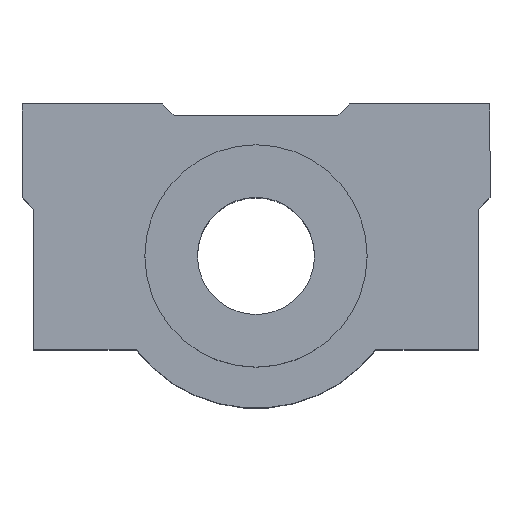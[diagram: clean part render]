
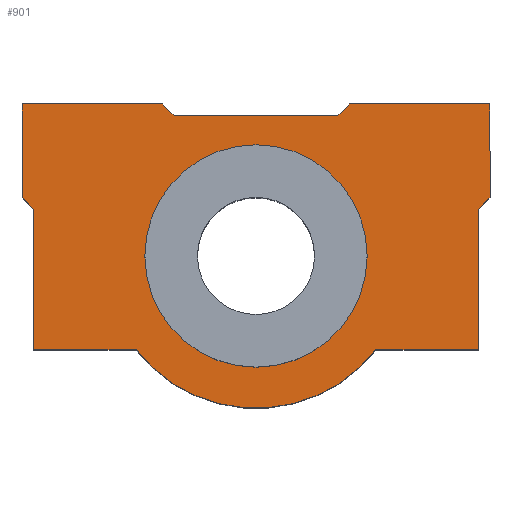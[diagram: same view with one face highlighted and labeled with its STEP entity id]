
A CAD part, top view. The second image highlights one B-rep face of the part: STEP entity #901.
In plain terms, the highlighted planar face has unit normal (0, 0, 1).
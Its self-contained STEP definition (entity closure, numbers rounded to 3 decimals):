
#133=CARTESIAN_POINT('',(-10.209,4.198,24.25));
#134=VERTEX_POINT('',#133);
#143=CARTESIAN_POINT('',(8.791,4.198,24.25));
#144=VERTEX_POINT('',#143);
#145=CARTESIAN_POINT('',(-0.709,4.198,24.25));
#146=DIRECTION('',(0.0,0.0,1.0));
#147=DIRECTION('',(-1.0,0.0,0.0));
#148=AXIS2_PLACEMENT_3D('',#145,#146,#147);
#149=CIRCLE('',#148,9.5);
#150=EDGE_CURVE('',#134,#144,#149,.T.);
#522=CARTESIAN_POINT('',(19.291,9.198,24.25));
#523=VERTEX_POINT('',#522);
#524=CARTESIAN_POINT('',(18.291,8.198,24.25));
#525=VERTEX_POINT('',#524);
#526=CARTESIAN_POINT('',(19.291,9.198,24.25));
#527=DIRECTION('',(-0.707,-0.707,0.0));
#528=VECTOR('',#527,1.414);
#529=LINE('',#526,#528);
#530=EDGE_CURVE('',#523,#525,#529,.T.);
#553=CARTESIAN_POINT('',(18.291,-3.802,24.25));
#554=VERTEX_POINT('',#553);
#555=CARTESIAN_POINT('',(18.291,8.198,24.25));
#556=DIRECTION('',(0.0,-1.0,0.0));
#557=VECTOR('',#556,12.);
#558=LINE('',#555,#557);
#559=EDGE_CURVE('',#525,#554,#558,.T.);
#577=CARTESIAN_POINT('',(9.538,-3.802,24.25));
#578=VERTEX_POINT('',#577);
#579=CARTESIAN_POINT('',(18.291,-3.802,24.25));
#580=DIRECTION('',(-1.0,0.0,0.0));
#581=VECTOR('',#580,8.753);
#582=LINE('',#579,#581);
#583=EDGE_CURVE('',#554,#578,#582,.T.);
#605=CARTESIAN_POINT('',(-10.956,-3.802,24.25));
#606=VERTEX_POINT('',#605);
#607=CARTESIAN_POINT('',(-0.709,4.198,24.25));
#608=DIRECTION('',(0.0,0.0,-1.0));
#609=DIRECTION('',(0.788,0.615,0.0));
#610=AXIS2_PLACEMENT_3D('',#607,#608,#609);
#611=CIRCLE('',#610,13.0);
#612=EDGE_CURVE('',#578,#606,#611,.T.);
#630=CARTESIAN_POINT('',(-19.709,-3.802,24.25));
#631=VERTEX_POINT('',#630);
#632=CARTESIAN_POINT('',(-10.956,-3.802,24.25));
#633=DIRECTION('',(-1.0,0.0,0.0));
#634=VECTOR('',#633,8.753);
#635=LINE('',#632,#634);
#636=EDGE_CURVE('',#606,#631,#635,.T.);
#658=CARTESIAN_POINT('',(-19.709,8.198,24.25));
#659=VERTEX_POINT('',#658);
#660=CARTESIAN_POINT('',(-19.709,-3.802,24.25));
#661=DIRECTION('',(0.0,1.0,0.0));
#662=VECTOR('',#661,12.);
#663=LINE('',#660,#662);
#664=EDGE_CURVE('',#631,#659,#663,.T.);
#682=CARTESIAN_POINT('',(-20.709,9.198,24.25));
#683=VERTEX_POINT('',#682);
#684=CARTESIAN_POINT('',(-19.709,8.198,24.25));
#685=DIRECTION('',(-0.707,0.707,0.0));
#686=VECTOR('',#685,1.414);
#687=LINE('',#684,#686);
#688=EDGE_CURVE('',#659,#683,#687,.T.);
#706=CARTESIAN_POINT('',(-20.709,17.198,24.25));
#707=VERTEX_POINT('',#706);
#708=CARTESIAN_POINT('',(-20.709,9.198,24.25));
#709=DIRECTION('',(0.0,1.0,0.0));
#710=VECTOR('',#709,8.);
#711=LINE('',#708,#710);
#712=EDGE_CURVE('',#683,#707,#711,.T.);
#730=CARTESIAN_POINT('',(-8.709,17.198,24.25));
#731=VERTEX_POINT('',#730);
#732=CARTESIAN_POINT('',(-20.709,17.198,24.25));
#733=DIRECTION('',(1.0,0.0,0.0));
#734=VECTOR('',#733,12.);
#735=LINE('',#732,#734);
#736=EDGE_CURVE('',#707,#731,#735,.T.);
#758=CARTESIAN_POINT('',(-7.709,16.198,24.25));
#759=VERTEX_POINT('',#758);
#760=CARTESIAN_POINT('',(-8.709,17.198,24.25));
#761=DIRECTION('',(0.707,-0.707,0.0));
#762=VECTOR('',#761,1.414);
#763=LINE('',#760,#762);
#764=EDGE_CURVE('',#731,#759,#763,.T.);
#782=CARTESIAN_POINT('',(6.291,16.198,24.25));
#783=VERTEX_POINT('',#782);
#784=CARTESIAN_POINT('',(-7.709,16.198,24.25));
#785=DIRECTION('',(1.0,0.0,0.0));
#786=VECTOR('',#785,14.);
#787=LINE('',#784,#786);
#788=EDGE_CURVE('',#759,#783,#787,.T.);
#806=CARTESIAN_POINT('',(7.291,17.198,24.25));
#807=VERTEX_POINT('',#806);
#808=CARTESIAN_POINT('',(6.291,16.198,24.25));
#809=DIRECTION('',(0.707,0.707,0.0));
#810=VECTOR('',#809,1.414);
#811=LINE('',#808,#810);
#812=EDGE_CURVE('',#783,#807,#811,.T.);
#830=CARTESIAN_POINT('',(19.291,17.198,24.25));
#831=VERTEX_POINT('',#830);
#832=CARTESIAN_POINT('',(7.291,17.198,24.25));
#833=DIRECTION('',(1.0,0.0,0.0));
#834=VECTOR('',#833,12.);
#835=LINE('',#832,#834);
#836=EDGE_CURVE('',#807,#831,#835,.T.);
#858=CARTESIAN_POINT('',(19.291,17.198,24.25));
#859=DIRECTION('',(0.0,-1.0,0.0));
#860=VECTOR('',#859,8.);
#861=LINE('',#858,#860);
#862=EDGE_CURVE('',#831,#523,#861,.T.);
#870=CARTESIAN_POINT('',(-0.709,6.004,24.25));
#871=DIRECTION('',(0.0,0.0,1.0));
#872=DIRECTION('',(1.0,0.0,0.0));
#873=AXIS2_PLACEMENT_3D('',#870,#871,#872);
#874=PLANE('',#873);
#875=ORIENTED_EDGE('',*,*,#530,.F.);
#876=ORIENTED_EDGE('',*,*,#862,.F.);
#877=ORIENTED_EDGE('',*,*,#836,.F.);
#878=ORIENTED_EDGE('',*,*,#812,.F.);
#879=ORIENTED_EDGE('',*,*,#788,.F.);
#880=ORIENTED_EDGE('',*,*,#764,.F.);
#881=ORIENTED_EDGE('',*,*,#736,.F.);
#882=ORIENTED_EDGE('',*,*,#712,.F.);
#883=ORIENTED_EDGE('',*,*,#688,.F.);
#884=ORIENTED_EDGE('',*,*,#664,.F.);
#885=ORIENTED_EDGE('',*,*,#636,.F.);
#886=ORIENTED_EDGE('',*,*,#612,.F.);
#887=ORIENTED_EDGE('',*,*,#583,.F.);
#888=ORIENTED_EDGE('',*,*,#559,.F.);
#889=EDGE_LOOP('',(#875,#876,#877,#878,#879,#880,#881,#882,#883,#884,#885,#886,#887,#888));
#890=FACE_OUTER_BOUND('',#889,.T.);
#891=CARTESIAN_POINT('',(-0.709,4.198,24.25));
#892=DIRECTION('',(0.0,0.0,1.0));
#893=DIRECTION('',(-1.0,0.0,0.0));
#894=AXIS2_PLACEMENT_3D('',#891,#892,#893);
#895=CIRCLE('',#894,9.5);
#896=EDGE_CURVE('',#144,#134,#895,.T.);
#897=ORIENTED_EDGE('',*,*,#896,.F.);
#898=ORIENTED_EDGE('',*,*,#150,.F.);
#899=EDGE_LOOP('',(#897,#898));
#900=FACE_BOUND('',#899,.T.);
#901=ADVANCED_FACE('',(#890,#900),#874,.T.);
